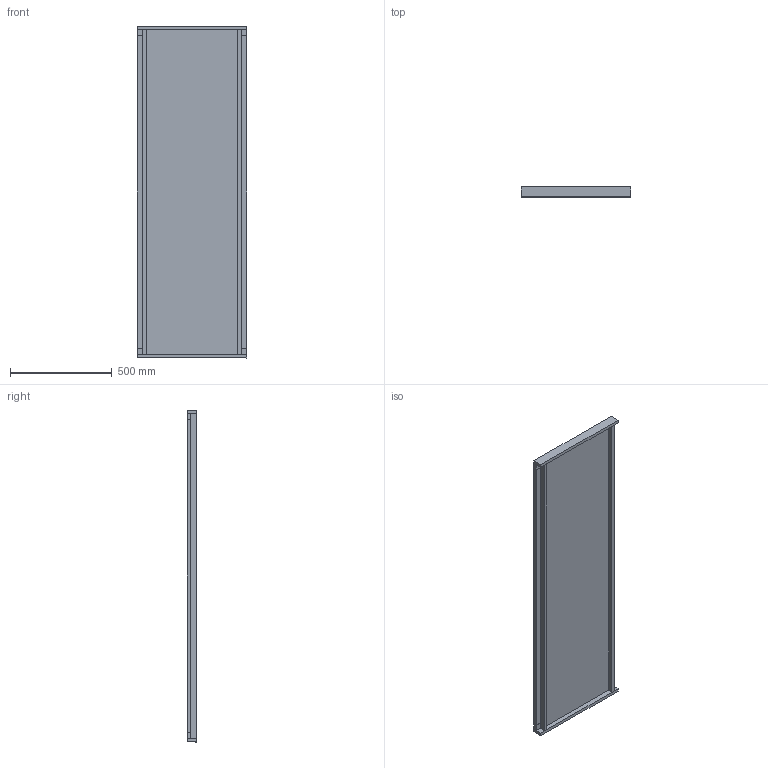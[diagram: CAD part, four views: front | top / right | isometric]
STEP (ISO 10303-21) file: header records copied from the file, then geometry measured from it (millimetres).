
FILE_DESCRIPTION(/* description */ (''),/* implementation_level */ '2;1');
FILE_NAME(/* name */ 'FRAMA_Symmetry-Mirror-L-3D',/* time_stamp */ '2025-10-28T11:09:56+01:00',/* author */ (''),/* organization */ (''),/* preprocessor_version */ 'ST-DEVELOPER v16.5',/* originating_system */ 'Rhino 7.38',/* authorisation */ '');
FILE_SCHEMA (('CONFIG_CONTROL_DESIGN'));
Length unit declared in the file: millimetre
Products named in the file (1): Document
Bounding box: 538 x 48 x 1632 mm (x, y, z)
Volume: 11160575.3 mm3; surface area: 3877311.7 mm2
Topology: 10 solids, 10 shells, 60 faces, 120 edges, 80 vertices
Faces by surface type: plane 60
Entity records: 1416 total; most frequent: CARTESIAN_POINT 386, ORIENTED_EDGE 240, EDGE_CURVE 120, B_SPLINE_CURVE_WITH_KNOTS 120, VERTEX_POINT 80, DIRECTION 64, AXIS2_PLACEMENT_3D 62, ADVANCED_FACE 60
